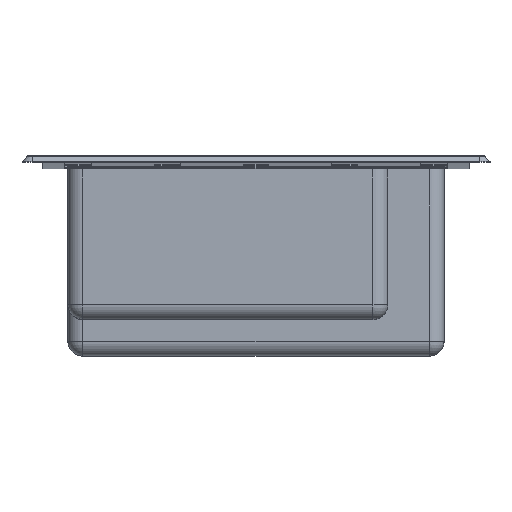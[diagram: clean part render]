
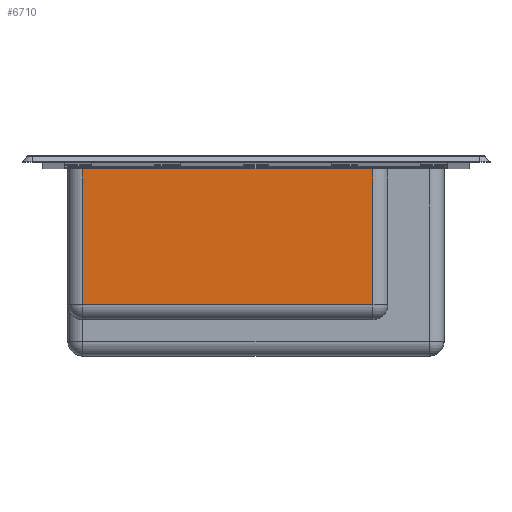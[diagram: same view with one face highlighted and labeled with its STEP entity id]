
A CAD part, left-side view. The second image highlights one B-rep face of the part: STEP entity #6710.
In plain terms, the highlighted planar face has unit normal (-1, 0, 0).
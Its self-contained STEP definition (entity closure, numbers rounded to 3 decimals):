
#6504=CARTESIAN_POINT('Vertex',(-96.,185.,6.)) ;
#6507=CARTESIAN_POINT('Line Origine',(-96.,30.,6.)) ;
#6511=CARTESIAN_POINT('Vertex',(-96.,-125.,6.)) ;
#6668=CARTESIAN_POINT('Line Origine',(-96.,185.,-74.5)) ;
#6672=CARTESIAN_POINT('Vertex',(-96.,185.,-139.)) ;
#6687=CARTESIAN_POINT('Axis2P3D Location',(-96.,-125.,6.)) ;
#6692=CARTESIAN_POINT('Line Origine',(-96.,-125.,-66.5)) ;
#6696=CARTESIAN_POINT('Vertex',(-96.,-125.,-139.)) ;
#6699=CARTESIAN_POINT('Line Origine',(-96.,30.,-139.)) ;
#6508=DIRECTION('Vector Direction',(0.,1.,0.)) ;
#6669=DIRECTION('Vector Direction',(0.,0.,1.)) ;
#6688=DIRECTION('Axis2P3D Direction',(-1.,0.,0.)) ;
#6689=DIRECTION('Axis2P3D XDirection',(0.,1.,0.)) ;
#6693=DIRECTION('Vector Direction',(0.,0.,-1.)) ;
#6700=DIRECTION('Vector Direction',(0.,1.,0.)) ;
#6690=AXIS2_PLACEMENT_3D('Plane Axis2P3D',#6687,#6688,#6689) ;
#6705=ORIENTED_EDGE('',*,*,#6698,.F.) ;
#6706=ORIENTED_EDGE('',*,*,#6513,.F.) ;
#6707=ORIENTED_EDGE('',*,*,#6674,.T.) ;
#6708=ORIENTED_EDGE('',*,*,#6703,.T.) ;
#6509=VECTOR('Line Direction',#6508,1.) ;
#6670=VECTOR('Line Direction',#6669,1.) ;
#6694=VECTOR('Line Direction',#6693,1.) ;
#6701=VECTOR('Line Direction',#6700,1.) ;
#6710=ADVANCED_FACE('Vaschino',(#6709),#6691,.T.) ;
#6513=EDGE_CURVE('',#6505,#6512,#6510,.F.) ;
#6674=EDGE_CURVE('',#6505,#6673,#6671,.F.) ;
#6698=EDGE_CURVE('',#6512,#6697,#6695,.T.) ;
#6703=EDGE_CURVE('',#6673,#6697,#6702,.F.) ;
#6704=EDGE_LOOP('',(#6705,#6706,#6707,#6708)) ;
#6709=FACE_OUTER_BOUND('',#6704,.T.) ;
#6510=LINE('Line',#6507,#6509) ;
#6671=LINE('Line',#6668,#6670) ;
#6695=LINE('Line',#6692,#6694) ;
#6702=LINE('Line',#6699,#6701) ;
#6691=PLANE('',#6690) ;
#6505=VERTEX_POINT('',#6504) ;
#6512=VERTEX_POINT('',#6511) ;
#6673=VERTEX_POINT('',#6672) ;
#6697=VERTEX_POINT('',#6696) ;
